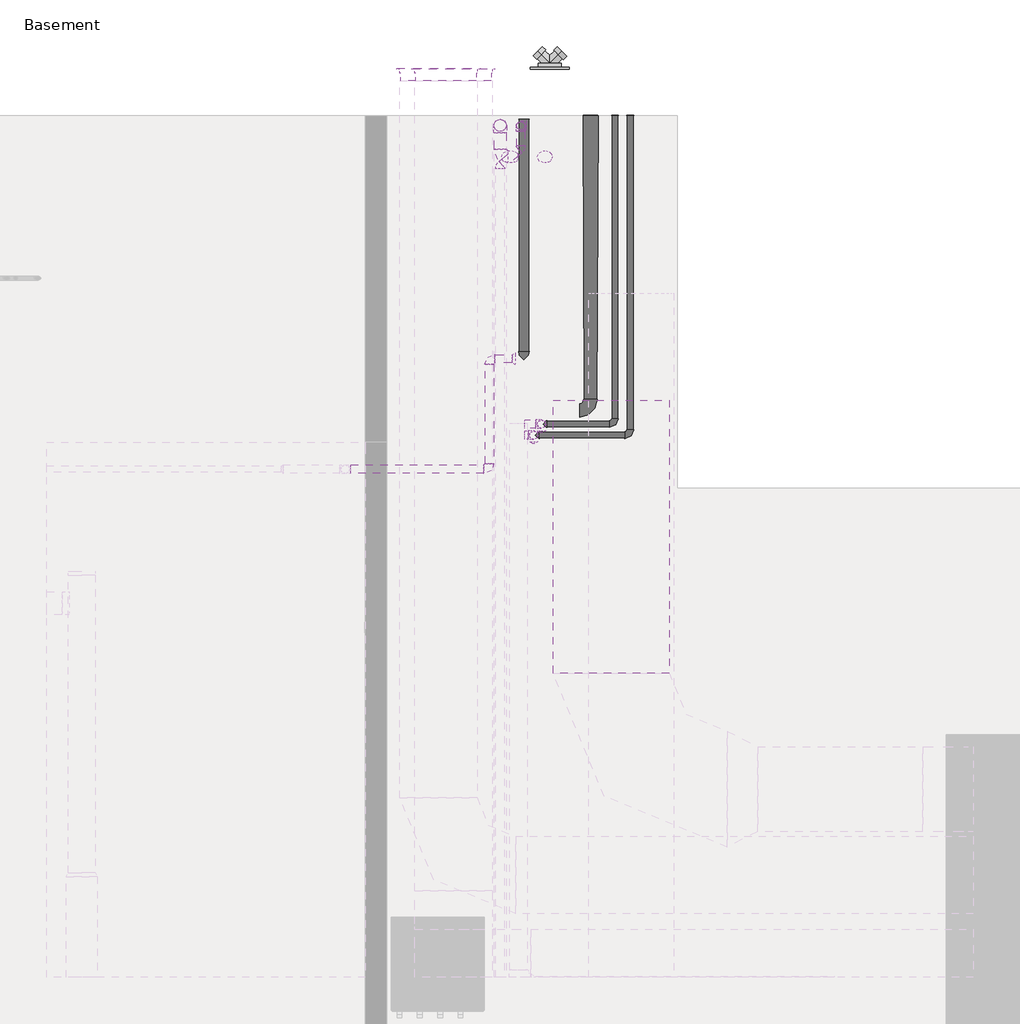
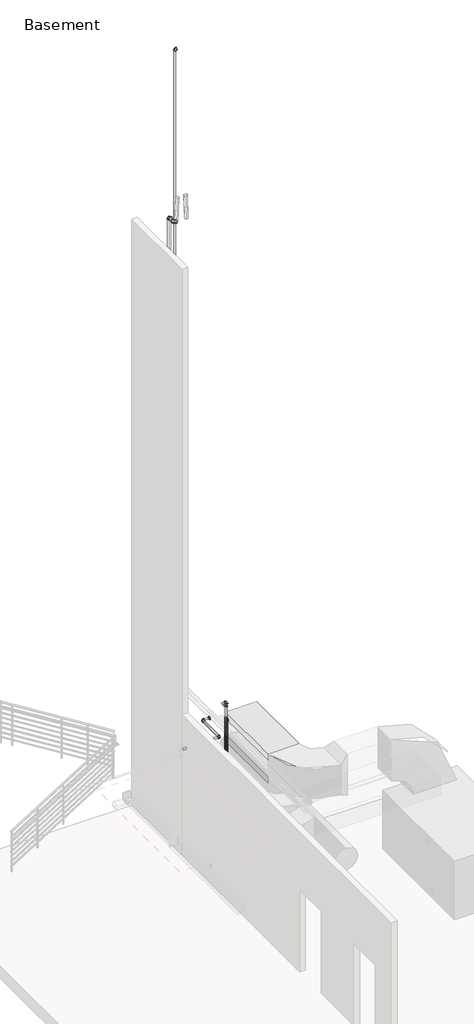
# One storey, part 6 of 6: 23 pipe segments, 22 pipe fittings, 5 proxies, 2 air terminals, 1 duct segment.
"""IFC4 building model written with IfcOpenShell, lengths in millimetres."""

from ifc_helpers import new_model, si_unit, point, frame, frame_2d, origin, place, context, project, spatial, polyline, circle_curve, trimmed, segment, composite_curve, outline, extrude, transform, mapped, element, save
from components import sidewall_diffuser_exhaust_20_x_20_0379b4b1, proxy_83300ab8, pipe_dcw_origin_standard_a8ebccfd, pipe_sanitary_outlet_standard_9883e289, pipe_wet_origin_standard_e697f1e6, pipe_elbow1_standard_2_37b9a8da, pipe_elbow1_standard_2_1c0ee581, pipe_elbow_standard_764eecca, pipe_elbow1_standard_2_c895df00, pipe_pvc_bend_standard_4dbec4a6, pipe_tee_standard_36278b8a, pipe_transition_eccentric_standard_8ef0957a, pipe_transition_eccentric_standard_2aaf0b1f

model = new_model("IFC4")

# Units and contexts
model_context = context("Model", 3, world=origin())
ifc_project = project(units=[si_unit("LENGTHUNIT", "METRE", prefix="MILLI")], contexts=[model_context])

# Site, building, storey
site = spatial("IfcSite", under=ifc_project)
building = spatial("IfcBuilding", under=site)
storey = spatial("IfcBuildingStorey", under=building, Name="Basement", Elevation=-3657.6)

# Air terminals
placement = place(None, origin())
sidewall_diffuser_exhaust_20_x_20_shape = sidewall_diffuser_exhaust_20_x_20_0379b4b1(model_context)
element("IfcAirTerminal", 1, ObjectType="Sidewall Diffuser - Exhaust : 20 x 20", at=placement, inside=storey, context=model_context, shape_type="MappedRepresentation", body=[
    mapped(sidewall_diffuser_exhaust_20_x_20_shape, transform((1430.0244701, 11908.259643, -1066.8), x_axis=(-1.0, 0.0, 0.0), y_axis=(0.0, -1.0, 0.0), z_axis=(0.0, 0.0, 1.0))),
])
element("IfcAirTerminal", 2, ObjectType="Sidewall Diffuser - Intake : 20 x 20", at=placement, inside=storey, context=model_context, shape_type="MappedRepresentation", body=[
    mapped(sidewall_diffuser_exhaust_20_x_20_shape, transform((1530.393321, 11908.259643, -2133.6), x_axis=(-1.0, 0.0, 0.0), y_axis=(0.0, -1.0, 0.0), z_axis=(0.0, 0.0, 1.0))),
])

# Proxies
proxy_shape = proxy_83300ab8(model_context)
element("IfcBuildingElementProxy", 3, Name="Fire Department Inlet Connection - 2 Way - Projecting : 4\"x2 1/2\"x2 1/2\"", ObjectType="Fire Department Inlet Connection - 2 Way - Projecting : 4\"x2 1/2\"x2 1/2\"", at=placement, inside=storey, context=model_context, shape_type="MappedRepresentation", body=[
    mapped(proxy_shape, transform((2162.3560388, 11908.259643, -2946.4), x_axis=(-1.0, 0.0, 0.0), y_axis=(0.0, 0.0, 1.0), z_axis=(0.0, 1.0, 0.0))),
])
pipe_dcw_origin_standard_shape = pipe_dcw_origin_standard_a8ebccfd(model_context)
element("IfcBuildingElementProxy", 4, Name="Pipe DCW Origin : Standard", ObjectType="Pipe DCW Origin : Standard", at=placement, inside=storey, context=model_context, shape_type="MappedRepresentation", body=[
    mapped(pipe_dcw_origin_standard_shape, transform((2692.1068022, 11603.459643, -2438.4), x_axis=(0.0, 1.0, 0.0), y_axis=(-1.0, 0.0, 0.0), z_axis=(0.0, 0.0, 1.0))),
])
element("IfcBuildingElementProxy", 5, Name="Pipe DHW Origin : Standard", ObjectType="Pipe DHW Origin : Standard", at=placement, inside=storey, context=model_context, shape_type="MappedRepresentation", body=[
    mapped(pipe_dcw_origin_standard_shape, transform((2590.5068022, 11603.459643, -2438.4), x_axis=(0.0, 1.0, 0.0), y_axis=(-1.0, 0.0, 0.0), z_axis=(0.0, 0.0, 1.0))),
])
pipe_sanitary_outlet_standard_shape = pipe_sanitary_outlet_standard_9883e289(model_context)
element("IfcBuildingElementProxy", 6, Name="Pipe Sanitary Outlet : Standard", ObjectType="Pipe Sanitary Outlet : Standard", at=placement, inside=storey, context=model_context, shape_type="MappedRepresentation", body=[
    mapped(pipe_sanitary_outlet_standard_shape, transform((2431.2485692, 11603.4596451, -2438.3997959), x_axis=(0.0, 1.0, 0.0), y_axis=(-1.0, 0.0, 0.0), z_axis=(0.0, 0.0, 1.0))),
])
pipe_wet_origin_standard_shape = pipe_wet_origin_standard_e697f1e6(model_context)
element("IfcBuildingElementProxy", 7, Name="Pipe Wet Origin : Standard", ObjectType="Pipe Wet Origin : Standard", at=placement, inside=storey, context=model_context, shape_type="MappedRepresentation", body=[
    mapped(pipe_wet_origin_standard_shape, transform((1992.1760388, 11578.5007311, -2438.4), x_axis=(0.0, 1.0, 0.0), y_axis=(-1.0, 0.0, 0.0), z_axis=(0.0, 0.0, 1.0))),
])

# Duct segment
element("IfcDuctSegment", 8, ObjectType="Radius Elbows / Taps", at=placement, inside=storey, context=model_context, shape_type="SweptSolid", body=[
    extrude(outline(polyline([(2184.5810388, 9731.7050553), (2946.5810388, 9731.7050553), (2946.5810388, 7938.0947518), (2184.5810388, 7938.0947518), (2184.5810388, 9731.7050553)])), frame((0.0, 0.0, -1295.4), z_axis=(0.0, 0.0, 1.0), x_axis=(1.0, 0.0, 0.0)), (0.0, 0.0, 1.0), 762.0),
])

# Pipe fittings
pipe_elbow1_standard_2_shape = pipe_elbow1_standard_2_37b9a8da(model_context)
element("IfcPipeFitting", 9, ObjectType="Pipe Elbow1 : Standard 2", at=placement, inside=storey, context=model_context, shape_type="MappedRepresentation", body=[
    mapped(pipe_elbow1_standard_2_shape, transform((1835.7890973, 11538.5447518, -558.8), x_axis=(0.0, 1.0, 0.0), y_axis=(0.0, 0.0, 1.0), z_axis=(1.0, 0.0, 0.0))),
])
element("IfcPipeFitting", 10, ObjectType="Pipe Elbow1 : Standard 2", at=placement, inside=storey, context=model_context, shape_type="MappedRepresentation", body=[
    mapped(pipe_elbow1_standard_2_shape, transform((1835.7890973, 11538.5447518, 11353.8), x_axis=(0.0, 0.0, 1.0), y_axis=(0.0, -1.0, 0.0), z_axis=(1.0, 0.0, 0.0))),
])
element("IfcPipeFitting", 11, ObjectType="Pipe Elbow1 : Standard 2", at=placement, inside=storey, context=model_context, shape_type="MappedRepresentation", body=[
    mapped(pipe_elbow1_standard_2_shape, transform((1835.7890973, 11330.409643, 11353.8), x_axis=(0.0, -1.0, 0.0), y_axis=(1.0, 0.0, 0.0), z_axis=(0.0, 0.0, 1.0))),
])
element("IfcPipeFitting", 12, ObjectType="Pipe Elbow1 : Standard 2", at=placement, inside=storey, context=model_context, shape_type="MappedRepresentation", body=[
    mapped(pipe_elbow1_standard_2_shape, transform((1992.1760388, 10004.7891583, -2438.4), x_axis=(0.0, -1.0, 0.0), y_axis=(0.0, 0.0, 1.0), z_axis=(-1.0, 0.0, 0.0))),
])
pipe_elbow1_standard_2_2_shape = pipe_elbow1_standard_2_1c0ee581(model_context)
element("IfcPipeFitting", 13, ObjectType="Pipe Elbow1 : Standard 2", at=placement, inside=storey, context=model_context, shape_type="MappedRepresentation", body=[
    mapped(pipe_elbow1_standard_2_2_shape, transform((2107.9068022, 9575.5665072, -152.4), x_axis=(0.0, 0.0, 1.0), y_axis=(-1.0, 0.0, 0.0), z_axis=(0.0, -1.0, 0.0))),
])
element("IfcPipeFitting", 14, ObjectType="Pipe Elbow1 : Standard 2", at=placement, inside=storey, context=model_context, shape_type="MappedRepresentation", body=[
    mapped(pipe_elbow1_standard_2_2_shape, transform((2057.1068022, 9502.9587059, -152.4), x_axis=(0.9999457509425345, 0.0, 0.01041610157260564), y_axis=(0.01041610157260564, 0.0, -0.9999457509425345), z_axis=(0.0, 1.0, 0.0))),
])
pipe_elbow_standard_shape = pipe_elbow_standard_764eecca(model_context)
element("IfcPipeFitting", 15, ObjectType="Pipe Elbow1 : Standard 2", at=placement, inside=storey, context=model_context, shape_type="MappedRepresentation", body=[
    mapped(pipe_elbow_standard_shape, transform((2107.9068022, 9575.5665072, -2438.4), x_axis=(0.0, 0.0, -1.0), y_axis=(1.0, 0.0, 0.0), z_axis=(0.0, -1.0, 0.0))),
])
element("IfcPipeFitting", 16, ObjectType="Pipe Elbow1 : Standard 2", at=placement, inside=storey, context=model_context, shape_type="MappedRepresentation", body=[
    mapped(pipe_elbow_standard_shape, transform((2057.1068022, 9502.9587059, -2438.4), x_axis=(0.0, 0.0, -1.0), y_axis=(1.0, 0.0, 0.0), z_axis=(0.0, -1.0, 0.0))),
])
element("IfcPipeFitting", 17, ObjectType="Pipe Elbow1 : Standard 2", at=placement, inside=storey, context=model_context, shape_type="MappedRepresentation", body=[
    mapped(pipe_elbow_standard_shape, transform((2590.5068022, 9575.5665072, -2438.4), x_axis=(1.0, 0.0, 0.0), y_axis=(0.0, 1.0, 0.0), z_axis=(0.0, 0.0, 1.0))),
])
element("IfcPipeFitting", 18, ObjectType="Pipe Elbow1 : Standard 2", at=placement, inside=storey, context=model_context, shape_type="MappedRepresentation", body=[
    mapped(pipe_elbow_standard_shape, transform((2692.1068022, 9502.9587059, -2438.4), x_axis=(1.0, 0.0, 0.0), y_axis=(0.0, 1.0, 0.0), z_axis=(0.0, 0.0, 1.0))),
])
element("IfcPipeFitting", 19, ObjectType="Pipe Elbow1 : Standard 2", at=placement, inside=storey, context=model_context, shape_type="MappedRepresentation", body=[
    mapped(pipe_elbow_standard_shape, transform((1972.3140973, 11535.3697518, -431.8), x_axis=(0.0, 1.0, 0.0), y_axis=(0.0, 0.0, 1.0), z_axis=(1.0, 0.0, 0.0))),
])
element("IfcPipeFitting", 20, ObjectType="Pipe Elbow1 : Standard 2", at=placement, inside=storey, context=model_context, shape_type="MappedRepresentation", body=[
    mapped(pipe_elbow_standard_shape, transform((1972.3140973, 11535.3697518, 15687.675), x_axis=(0.0, 0.0, 1.0), y_axis=(1.0, 0.0, 0.0), z_axis=(0.0, 1.0, 0.0))),
])
element("IfcPipeFitting", 21, ObjectType="Pipe Elbow1 : Standard 2", at=placement, inside=storey, context=model_context, shape_type="MappedRepresentation", body=[
    mapped(pipe_elbow_standard_shape, transform((1765.5162426, 9279.359643, -762.0), x_axis=(1.0, 0.0, 0.0), y_axis=(0.0, 1.0, 0.0), z_axis=(0.0, 0.0, 1.0))),
])
element("IfcPipeFitting", 22, ObjectType="Pipe Elbow1 : Standard 2", at=placement, inside=storey, context=model_context, shape_type="MappedRepresentation", body=[
    mapped(pipe_elbow_standard_shape, transform((1765.5162426, 10004.7891583, -762.0), x_axis=(-1.0, 0.0, 0.0), y_axis=(0.0, -1.0, 0.0), z_axis=(0.0, 0.0, 1.0))),
])
pipe_elbow1_standard_2_3_shape = pipe_elbow1_standard_2_c895df00(model_context)
element("IfcPipeFitting", 23, ObjectType="Pipe Elbow1 : Standard 2", at=placement, inside=storey, context=model_context, shape_type="MappedRepresentation", body=[
    mapped(pipe_elbow1_standard_2_3_shape, transform((1972.3140973, 11389.7166367, -431.8), x_axis=(0.0, -1.0, 0.0), y_axis=(-1.0, 0.0, 0.0), z_axis=(0.0, 0.0, -1.0))),
])
element("IfcPipeFitting", 24, ObjectType="Pipe Elbow1 : Standard 2", at=placement, inside=storey, context=model_context, shape_type="MappedRepresentation", body=[
    mapped(pipe_elbow1_standard_2_3_shape, transform((1835.7890973, 11270.2572508, -431.8), x_axis=(0.0, 1.0, 0.0), y_axis=(1.0, 0.0, 0.0), z_axis=(0.0, 0.0, -1.0))),
])
pipe_pvc_bend_standard_shape = pipe_pvc_bend_standard_4dbec4a6(model_context)
element("IfcPipeFitting", 25, ObjectType="Pipe PVC Bend : Standard", at=placement, inside=storey, context=model_context, shape_type="MappedRepresentation", body=[
    mapped(pipe_pvc_bend_standard_shape, transform((2431.2485692, 9666.2337041, -2418.220359), x_axis=(0.0, -0.9999457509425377, 0.010416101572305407), y_axis=(-0.999996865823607, -2.6078438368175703e-05, -0.0025035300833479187), z_axis=(0.002503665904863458, -0.010416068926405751, -0.9999426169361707))),
])
pipe_tee_standard_shape = pipe_tee_standard_36278b8a(model_context)
element("IfcPipeFitting", 26, ObjectType="Pipe Tee : Standard", at=placement, inside=storey, context=model_context, shape_type="MappedRepresentation", body=[
    mapped(pipe_tee_standard_shape, transform((2057.1068022, 9502.9587059, -533.4), x_axis=(0.0, 0.0, 1.0), y_axis=(0.0, 1.0, 0.0), z_axis=(-1.0, 0.0, 0.0))),
])
element("IfcPipeFitting", 27, ObjectType="Pipe Tee : Standard", at=placement, inside=storey, context=model_context, shape_type="MappedRepresentation", body=[
    mapped(pipe_tee_standard_shape, transform((2107.9068022, 9575.5665072, -609.6), x_axis=(0.0, 0.0, 1.0), y_axis=(0.0, 1.0, 0.0), z_axis=(-1.0, 0.0, 0.0))),
])
pipe_transition_eccentric_standard_shape = pipe_transition_eccentric_standard_8ef0957a(model_context)
element("IfcPipeFitting", 28, ObjectType="Pipe Transition Eccentric : Standard", at=placement, inside=storey, context=model_context, shape_type="MappedRepresentation", body=[
    mapped(pipe_transition_eccentric_standard_shape, transform((2057.1068022, 9460.0962059, -533.4), x_axis=(0.0, -1.0, 0.0), y_axis=(0.0, 0.0, 1.0), z_axis=(-1.0, 0.0, 0.0))),
])
element("IfcPipeFitting", 29, ObjectType="Pipe Transition Eccentric : Standard", at=placement, inside=storey, context=model_context, shape_type="MappedRepresentation", body=[
    mapped(pipe_transition_eccentric_standard_shape, transform((2107.9068022, 9532.7040072, -609.6), x_axis=(0.0, -1.0, 0.0), y_axis=(0.0, 0.0, 1.0), z_axis=(-1.0, 0.0, 0.0))),
])
pipe_transition_eccentric_standard_2_shape = pipe_transition_eccentric_standard_2aaf0b1f(model_context)
element("IfcPipeFitting", 30, ObjectType="Pipe Transition Eccentric : Standard", at=placement, inside=storey, context=model_context, shape_type="MappedRepresentation", body=[
    mapped(pipe_transition_eccentric_standard_2_shape, transform((1936.6135388, 10004.7891583, -762.0), x_axis=(-1.0, 0.0, 0.0), y_axis=(0.0, -1.0, 0.0), z_axis=(0.0, 0.0, 1.0))),
])

# Pipe segments
element("IfcPipeSegment", 31, ObjectType="PVC", at=placement, inside=storey, context=model_context, shape_type="SweptSolid", body=[
    extrude(outline(composite_curve([segment(trimmed(circle_curve(frame_2d((0.0, 57.15)), 57.15), [point((57.15, 57.15))], [point((0.0, 0.0))], False, "CARTESIAN"), True, "CONTINUOUS"), segment(trimmed(circle_curve(frame_2d((0.0, 57.15)), 57.15), [point((0.0, 0.0))], [point((-57.15, 57.15))], False, "CARTESIAN"), True, "CONTINUOUS"), segment(trimmed(circle_curve(frame_2d((0.0, 57.15)), 57.15), [point((-57.15, 57.15))], [point((0.0, 114.3000001))], False, "CARTESIAN"), True, "CONTINUOUS"), segment(trimmed(circle_curve(frame_2d((0.0, 57.15)), 57.15), [point((0.0, 114.3000001))], [point((57.15, 57.15))], False, "CARTESIAN"), True, "CONTINUOUS")], self_intersect=False)), frame((2431.2485692, 11602.8643649, -2495.5466956), z_axis=(0.0, -0.9999457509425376, 0.010416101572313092), x_axis=(1.0, 0.0, 0.0)), (0.0, 0.0, 1.0), 1864.3041348),
])
element("IfcPipeSegment", 32, ObjectType="PVC", at=placement, inside=storey, context=model_context, shape_type="SweptSolid", body=[
    extrude(outline(composite_curve([segment(trimmed(circle_curve(frame_2d((0.0, 57.15)), 57.15), [point((0.0, 0.0))], [point((-57.15, 57.15))], False, "CARTESIAN"), True, "CONTINUOUS"), segment(trimmed(circle_curve(frame_2d((0.0, 57.15)), 57.15), [point((-57.15, 57.15))], [point((0.0, 114.3))], False, "CARTESIAN"), True, "CONTINUOUS"), segment(trimmed(circle_curve(frame_2d((0.0, 57.15)), 57.15), [point((0.0, 114.3))], [point((57.15, 57.15))], False, "CARTESIAN"), True, "CONTINUOUS"), segment(trimmed(circle_curve(frame_2d((0.0, 57.15)), 57.15), [point((57.15, 57.15))], [point((0.0, 0.0))], False, "CARTESIAN"), True, "CONTINUOUS")], self_intersect=False)), frame((2029.2716844, 9609.0837041, -2419.2268326), z_axis=(0.9999968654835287, 0.0, 0.002503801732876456), x_axis=(0.002503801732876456, 0.0, -0.9999968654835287)), (0.0, 0.0, 1.0), 328.9512403),
])
element("IfcPipeSegment", 33, ObjectType="Standard", at=placement, inside=storey, context=model_context, shape_type="SweptSolid", body=[
    extrude(outline(composite_curve([segment(trimmed(circle_curve(frame_2d((0.0, 26.9875)), 26.9875), [point((0.0, 0.0))], [point((-26.9874999, 26.9875))], False, "CARTESIAN"), True, "CONTINUOUS"), segment(trimmed(circle_curve(frame_2d((0.0, 26.9875)), 26.9875), [point((-26.9874999, 26.9875))], [point((0.0, 53.975))], False, "CARTESIAN"), True, "CONTINUOUS"), segment(trimmed(circle_curve(frame_2d((0.0, 26.9875)), 26.9875), [point((0.0, 53.975))], [point((26.9875, 26.9875))], False, "CARTESIAN"), True, "CONTINUOUS"), segment(trimmed(circle_curve(frame_2d((0.0, 26.9875)), 26.9875), [point((26.9875, 26.9875))], [point((0.0, 0.0))], False, "CARTESIAN"), True, "CONTINUOUS")], self_intersect=False)), frame((1998.7496201, 9475.9712059, -153.0078873), z_axis=(0.9999457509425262, 0.0, 0.010416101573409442), x_axis=(0.010416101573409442, 0.0, -0.9999457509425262)), (0.0, 0.0, 1.0), 21.4655287),
])
element("IfcPipeSegment", 34, ObjectType="Standard", at=placement, inside=storey, context=model_context, shape_type="SweptSolid", body=[
    extrude(outline(composite_curve([segment(trimmed(circle_curve(frame_2d((0.0, 26.9875)), 26.9875), [point((0.0, 0.0))], [point((-26.9875, 26.9875))], False, "CARTESIAN"), True, "CONTINUOUS"), segment(trimmed(circle_curve(frame_2d((0.0, 26.9875)), 26.9875), [point((-26.9875, 26.9875))], [point((0.0, 53.975))], False, "CARTESIAN"), True, "CONTINUOUS"), segment(trimmed(circle_curve(frame_2d((0.0, 26.9875)), 26.9875), [point((0.0, 53.975))], [point((26.9874999, 26.9875))], False, "CARTESIAN"), True, "CONTINUOUS"), segment(trimmed(circle_curve(frame_2d((0.0, 26.9875)), 26.9875), [point((26.9874999, 26.9875))], [point((0.0, 0.0))], False, "CARTESIAN"), True, "CONTINUOUS")], self_intersect=False)), frame((1998.7496201, 9548.5790072, -153.537054), z_axis=(0.9999457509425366, 0.0, 0.010416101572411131), x_axis=(0.010416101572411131, 0.0, -0.9999457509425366)), (0.0, 0.0, 1.0), 72.2682847),
])
element("IfcPipeSegment", 35, ObjectType="Standard", at=placement, inside=storey, context=model_context, shape_type="SweptSolid", body=[
    extrude(outline(composite_curve([segment(trimmed(circle_curve(frame_2d((2107.9068022, 9575.5665072)), 26.9875), [point((2080.9193022, 9575.5665072))], [point((2107.9068022, 9602.5540072))], False, "CARTESIAN"), True, "CONTINUOUS"), segment(trimmed(circle_curve(frame_2d((2107.9068022, 9575.5665072)), 26.9875), [point((2107.9068022, 9602.5540072))], [point((2134.8943022, 9575.5665072))], False, "CARTESIAN"), True, "CONTINUOUS"), segment(trimmed(circle_curve(frame_2d((2107.9068022, 9575.5665072)), 26.9875), [point((2134.8943022, 9575.5665072))], [point((2107.9068022, 9548.5790072))], False, "CARTESIAN"), True, "CONTINUOUS"), segment(trimmed(circle_curve(frame_2d((2107.9068022, 9575.5665072)), 26.9875), [point((2107.9068022, 9548.5790072))], [point((2080.9193022, 9575.5665072))], False, "CARTESIAN"), True, "CONTINUOUS")], self_intersect=False)), frame((0.0, 0.0, -566.7375), z_axis=(0.0, 0.0, 1.0), x_axis=(1.0, 0.0, 0.0)), (0.0, 0.0, 1.0), 377.4426806),
])
element("IfcPipeSegment", 36, ObjectType="Standard", at=placement, inside=storey, context=model_context, shape_type="SweptSolid", body=[
    extrude(outline(composite_curve([segment(trimmed(circle_curve(frame_2d((9575.5665072, -2438.4)), 26.9875), [point((9548.5790072, -2438.4))], [point((9575.5665072, -2411.4125))], False, "CARTESIAN"), True, "CONTINUOUS"), segment(trimmed(circle_curve(frame_2d((9575.5665072, -2438.4)), 26.9875), [point((9575.5665072, -2411.4125))], [point((9602.5540072, -2438.4))], False, "CARTESIAN"), True, "CONTINUOUS"), segment(trimmed(circle_curve(frame_2d((9575.5665072, -2438.4)), 26.9875), [point((9602.5540072, -2438.4))], [point((9575.5665072, -2465.3875))], False, "CARTESIAN"), True, "CONTINUOUS"), segment(trimmed(circle_curve(frame_2d((9575.5665072, -2438.4)), 26.9875), [point((9575.5665072, -2465.3875))], [point((9548.5790072, -2438.4))], False, "CARTESIAN"), True, "CONTINUOUS")], self_intersect=False)), frame((2144.4193022, 0.0, 0.0), z_axis=(1.0, 0.0, 0.0), x_axis=(0.0, 1.0, 0.0)), (0.0, 0.0, 1.0), 409.575),
])
element("IfcPipeSegment", 37, ObjectType="Standard", at=placement, inside=storey, context=model_context, shape_type="SweptSolid", body=[
    extrude(outline(composite_curve([segment(trimmed(circle_curve(frame_2d((9502.9587059, -2438.4)), 26.9875), [point((9475.9712059, -2438.4))], [point((9502.9587059, -2411.4125))], False, "CARTESIAN"), True, "CONTINUOUS"), segment(trimmed(circle_curve(frame_2d((9502.9587059, -2438.4)), 26.9875), [point((9502.9587059, -2411.4125))], [point((9529.9462059, -2438.4))], False, "CARTESIAN"), True, "CONTINUOUS"), segment(trimmed(circle_curve(frame_2d((9502.9587059, -2438.4)), 26.9875), [point((9529.9462059, -2438.4))], [point((9502.9587059, -2465.3875))], False, "CARTESIAN"), True, "CONTINUOUS"), segment(trimmed(circle_curve(frame_2d((9502.9587059, -2438.4)), 26.9875), [point((9502.9587059, -2465.3875))], [point((9475.9712059, -2438.4))], False, "CARTESIAN"), True, "CONTINUOUS")], self_intersect=False)), frame((2093.6193022, 0.0, 0.0), z_axis=(1.0, 0.0, 0.0), x_axis=(0.0, 1.0, 0.0)), (0.0, 0.0, 1.0), 561.975),
])
element("IfcPipeSegment", 38, ObjectType="Standard", at=placement, inside=storey, context=model_context, shape_type="SweptSolid", body=[
    extrude(outline(composite_curve([segment(trimmed(circle_curve(frame_2d((-2438.4, 2692.1068022)), 26.9875), [point((-2438.4, 2719.0943022))], [point((-2411.4125, 2692.1068022))], False, "CARTESIAN"), True, "CONTINUOUS"), segment(trimmed(circle_curve(frame_2d((-2438.4, 2692.1068022)), 26.9875), [point((-2411.4125, 2692.1068022))], [point((-2438.4, 2665.1193022))], False, "CARTESIAN"), True, "CONTINUOUS"), segment(trimmed(circle_curve(frame_2d((-2438.4, 2692.1068022)), 26.9875), [point((-2438.4, 2665.1193022))], [point((-2465.3875, 2692.1068022))], False, "CARTESIAN"), True, "CONTINUOUS"), segment(trimmed(circle_curve(frame_2d((-2438.4, 2692.1068022)), 26.9875), [point((-2465.3875, 2692.1068022))], [point((-2438.4, 2719.0943022))], False, "CARTESIAN"), True, "CONTINUOUS")], self_intersect=False)), frame((0.0, 9539.4712059, 0.0), z_axis=(0.0, 1.0, 0.0), x_axis=(0.0, 0.0, 1.0)), (0.0, 0.0, 1.0), 2063.988437),
])
element("IfcPipeSegment", 39, ObjectType="Standard", at=placement, inside=storey, context=model_context, shape_type="SweptSolid", body=[
    extrude(outline(composite_curve([segment(trimmed(circle_curve(frame_2d((2057.1068022, 9502.9587059)), 26.9875), [point((2084.0943022, 9502.9587059))], [point((2057.1068022, 9475.9712059))], False, "CARTESIAN"), True, "CONTINUOUS"), segment(trimmed(circle_curve(frame_2d((2057.1068022, 9502.9587059)), 26.9875), [point((2057.1068022, 9475.9712059))], [point((2030.1193022, 9502.9587059))], False, "CARTESIAN"), True, "CONTINUOUS"), segment(trimmed(circle_curve(frame_2d((2057.1068022, 9502.9587059)), 26.9875), [point((2030.1193022, 9502.9587059))], [point((2057.1068022, 9529.9462059))], False, "CARTESIAN"), True, "CONTINUOUS"), segment(trimmed(circle_curve(frame_2d((2057.1068022, 9502.9587059)), 26.9875), [point((2057.1068022, 9529.9462059))], [point((2084.0943022, 9502.9587059))], False, "CARTESIAN"), True, "CONTINUOUS")], self_intersect=False)), frame((0.0, 0.0, -2401.8875), z_axis=(0.0, 0.0, 1.0), x_axis=(1.0, 0.0, 0.0)), (0.0, 0.0, 1.0), 1825.625),
])
element("IfcPipeSegment", 40, ObjectType="Standard", at=placement, inside=storey, context=model_context, shape_type="SweptSolid", body=[
    extrude(outline(composite_curve([segment(trimmed(circle_curve(frame_2d((2057.1068022, 9502.9587059)), 26.9875), [point((2084.0943022, 9502.9587059))], [point((2057.1068022, 9475.9712059))], False, "CARTESIAN"), True, "CONTINUOUS"), segment(trimmed(circle_curve(frame_2d((2057.1068022, 9502.9587059)), 26.9875), [point((2057.1068022, 9475.9712059))], [point((2030.1193022, 9502.9587059))], False, "CARTESIAN"), True, "CONTINUOUS"), segment(trimmed(circle_curve(frame_2d((2057.1068022, 9502.9587059)), 26.9875), [point((2030.1193022, 9502.9587059))], [point((2057.1068022, 9529.9462059))], False, "CARTESIAN"), True, "CONTINUOUS"), segment(trimmed(circle_curve(frame_2d((2057.1068022, 9502.9587059)), 26.9875), [point((2057.1068022, 9529.9462059))], [point((2084.0943022, 9502.9587059))], False, "CARTESIAN"), True, "CONTINUOUS")], self_intersect=False)), frame((0.0, 0.0, -490.5375), z_axis=(0.0, 0.0, 1.0), x_axis=(1.0, 0.0, 0.0)), (0.0, 0.0, 1.0), 301.2426806),
])
element("IfcPipeSegment", 41, ObjectType="Standard", at=placement, inside=storey, context=model_context, shape_type="SweptSolid", body=[
    extrude(outline(composite_curve([segment(trimmed(circle_curve(frame_2d((2107.9068022, 9575.5665072)), 26.9875), [point((2080.9193022, 9575.5665072))], [point((2107.9068022, 9602.5540072))], False, "CARTESIAN"), True, "CONTINUOUS"), segment(trimmed(circle_curve(frame_2d((2107.9068022, 9575.5665072)), 26.9875), [point((2107.9068022, 9602.5540072))], [point((2134.8943022, 9575.5665072))], False, "CARTESIAN"), True, "CONTINUOUS"), segment(trimmed(circle_curve(frame_2d((2107.9068022, 9575.5665072)), 26.9875), [point((2134.8943022, 9575.5665072))], [point((2107.9068022, 9548.5790072))], False, "CARTESIAN"), True, "CONTINUOUS"), segment(trimmed(circle_curve(frame_2d((2107.9068022, 9575.5665072)), 26.9875), [point((2107.9068022, 9548.5790072))], [point((2080.9193022, 9575.5665072))], False, "CARTESIAN"), True, "CONTINUOUS")], self_intersect=False)), frame((0.0, 0.0, -2401.8875), z_axis=(0.0, 0.0, 1.0), x_axis=(1.0, 0.0, 0.0)), (0.0, 0.0, 1.0), 1749.425),
])
element("IfcPipeSegment", 42, ObjectType="Standard", at=placement, inside=storey, context=model_context, shape_type="SweptSolid", body=[
    extrude(outline(composite_curve([segment(trimmed(circle_curve(frame_2d((-2438.4, 2590.5068022)), 26.9875), [point((-2438.4, 2563.5193022))], [point((-2465.3875, 2590.5068022))], False, "CARTESIAN"), True, "CONTINUOUS"), segment(trimmed(circle_curve(frame_2d((-2438.4, 2590.5068022)), 26.9875), [point((-2465.3875, 2590.5068022))], [point((-2438.4, 2617.4943022))], False, "CARTESIAN"), True, "CONTINUOUS"), segment(trimmed(circle_curve(frame_2d((-2438.4, 2590.5068022)), 26.9875), [point((-2438.4, 2617.4943022))], [point((-2411.4125, 2590.5068022))], False, "CARTESIAN"), True, "CONTINUOUS"), segment(trimmed(circle_curve(frame_2d((-2438.4, 2590.5068022)), 26.9875), [point((-2411.4125, 2590.5068022))], [point((-2438.4, 2563.5193022))], False, "CARTESIAN"), True, "CONTINUOUS")], self_intersect=False)), frame((0.0, 9612.0790072, 0.0), z_axis=(0.0, 1.0, 0.0), x_axis=(0.0, 0.0, 1.0)), (0.0, 0.0, 1.0), 1991.3806358),
])
element("IfcPipeSegment", 43, ObjectType="Standard", at=placement, inside=storey, context=model_context, shape_type="SweptSolid", body=[
    extrude(outline(composite_curve([segment(trimmed(circle_curve(frame_2d((1835.7890973, 11538.5447518)), 39.6875), [point((1875.4765973, 11538.5447518))], [point((1835.7890973, 11498.8572518))], False, "CARTESIAN"), True, "CONTINUOUS"), segment(trimmed(circle_curve(frame_2d((1835.7890973, 11538.5447518)), 39.6875), [point((1835.7890973, 11498.8572518))], [point((1796.1015973, 11538.5447518))], False, "CARTESIAN"), True, "CONTINUOUS"), segment(trimmed(circle_curve(frame_2d((1835.7890973, 11538.5447518)), 39.6875), [point((1796.1015973, 11538.5447518))], [point((1835.7890973, 11578.2322518))], False, "CARTESIAN"), True, "CONTINUOUS"), segment(trimmed(circle_curve(frame_2d((1835.7890973, 11538.5447518)), 39.6875), [point((1835.7890973, 11578.2322518))], [point((1875.4765973, 11538.5447518))], False, "CARTESIAN"), True, "CONTINUOUS")], self_intersect=False)), frame((0.0, 0.0, -509.5875), z_axis=(0.0, 0.0, 1.0), x_axis=(1.0, 0.0, 0.0)), (0.0, 0.0, 1.0), 11814.175),
])
element("IfcPipeSegment", 44, ObjectType="Standard", at=placement, inside=storey, context=model_context, shape_type="SweptSolid", body=[
    extrude(outline(composite_curve([segment(trimmed(circle_curve(frame_2d((1972.3140973, 11535.3697518)), 26.9875), [point((1999.3015973, 11535.3697518))], [point((1972.3140973, 11508.3822518))], False, "CARTESIAN"), True, "CONTINUOUS"), segment(trimmed(circle_curve(frame_2d((1972.3140973, 11535.3697518)), 26.9875), [point((1972.3140973, 11508.3822518))], [point((1945.3265973, 11535.3697518))], False, "CARTESIAN"), True, "CONTINUOUS"), segment(trimmed(circle_curve(frame_2d((1972.3140973, 11535.3697518)), 26.9875), [point((1945.3265973, 11535.3697518))], [point((1972.3140973, 11562.3572518))], False, "CARTESIAN"), True, "CONTINUOUS"), segment(trimmed(circle_curve(frame_2d((1972.3140973, 11535.3697518)), 26.9875), [point((1972.3140973, 11562.3572518))], [point((1999.3015973, 11535.3697518))], False, "CARTESIAN"), True, "CONTINUOUS")], self_intersect=False)), frame((0.0, 0.0, -395.2875), z_axis=(0.0, 0.0, 1.0), x_axis=(1.0, 0.0, 0.0)), (0.0, 0.0, 1.0), 16046.45),
])
element("IfcPipeSegment", 45, ObjectType="Standard", at=placement, inside=storey, context=model_context, shape_type="SweptSolid", body=[
    extrude(outline(composite_curve([segment(trimmed(circle_curve(frame_2d((-431.8, 1972.3140973)), 26.9875), [point((-404.8125, 1972.3140973))], [point((-431.8, 1945.3265973))], False, "CARTESIAN"), True, "CONTINUOUS"), segment(trimmed(circle_curve(frame_2d((-431.8, 1972.3140973)), 26.9875), [point((-431.8, 1945.3265973))], [point((-458.7875, 1972.3140973))], False, "CARTESIAN"), True, "CONTINUOUS"), segment(trimmed(circle_curve(frame_2d((-431.8, 1972.3140973)), 26.9875), [point((-458.7875, 1972.3140973))], [point((-431.8, 1999.3015973))], False, "CARTESIAN"), True, "CONTINUOUS"), segment(trimmed(circle_curve(frame_2d((-431.8, 1972.3140973)), 26.9875), [point((-431.8, 1999.3015973))], [point((-404.8125, 1972.3140973))], False, "CARTESIAN"), True, "CONTINUOUS")], self_intersect=False)), frame((0.0, 11406.2848481, 0.0), z_axis=(0.0, 1.0, 0.0), x_axis=(0.0, 0.0, 1.0)), (0.0, 0.0, 1.0), 92.5724037),
])
element("IfcPipeSegment", 46, ObjectType="Standard", at=placement, inside=storey, context=model_context, shape_type="SweptSolid", body=[
    extrude(outline(composite_curve([segment(trimmed(circle_curve(frame_2d((0.0, -26.9875)), 26.9875), [point((-26.9875, -26.9875))], [point((0.0, 0.0))], False, "CARTESIAN"), True, "CONTINUOUS"), segment(trimmed(circle_curve(frame_2d((0.0, -26.9875)), 26.9875), [point((0.0, 0.0))], [point((26.9875, -26.9875))], False, "CARTESIAN"), True, "CONTINUOUS"), segment(trimmed(circle_curve(frame_2d((0.0, -26.9875)), 26.9875), [point((26.9875, -26.9875))], [point((0.0, -53.975))], False, "CARTESIAN"), True, "CONTINUOUS"), segment(trimmed(circle_curve(frame_2d((0.0, -26.9875)), 26.9875), [point((0.0, -53.975))], [point((-26.9875, -26.9875))], False, "CARTESIAN"), True, "CONTINUOUS")], self_intersect=False)), frame((1848.2579466, 11281.1674949, -458.7875), z_axis=(0.7525766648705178, 0.6585046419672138, 0.0), x_axis=(0.6585046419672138, -0.7525766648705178, 0.0)), (0.0, 0.0, 1.0), 148.2736666),
])
element("IfcPipeSegment", 47, ObjectType="Standard", at=placement, inside=storey, context=model_context, shape_type="SweptSolid", body=[
    extrude(outline(composite_curve([segment(trimmed(circle_curve(frame_2d((0.0, -39.6875)), 39.6875), [point((-39.6875, -39.6875))], [point((0.0, 0.0))], False, "CARTESIAN"), True, "CONTINUOUS"), segment(trimmed(circle_curve(frame_2d((0.0, -39.6875)), 39.6875), [point((0.0, 0.0))], [point((39.6875, -39.6875))], False, "CARTESIAN"), True, "CONTINUOUS"), segment(trimmed(circle_curve(frame_2d((0.0, -39.6875)), 39.6875), [point((39.6875, -39.6875))], [point((0.0, -79.375))], False, "CARTESIAN"), True, "CONTINUOUS"), segment(trimmed(circle_curve(frame_2d((0.0, -39.6875)), 39.6875), [point((0.0, -79.375))], [point((-39.6875, -39.6875))], False, "CARTESIAN"), True, "CONTINUOUS")], self_intersect=False)), frame((1796.1015973, 11379.622143, 11353.8), z_axis=(3.2196112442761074e-12, 1.0, 0.0), x_axis=(0.0, 0.0, -1.0)), (0.0, 0.0, 1.0), 109.7101088),
])
element("IfcPipeSegment", 48, ObjectType="Standard", at=placement, inside=storey, context=model_context, shape_type="SweptSolid", body=[
    extrude(outline(composite_curve([segment(trimmed(circle_curve(frame_2d((0.0, 39.6875)), 39.6875), [point((0.0, 79.375))], [point((39.6875, 39.6875))], False, "CARTESIAN"), True, "CONTINUOUS"), segment(trimmed(circle_curve(frame_2d((0.0, 39.6875)), 39.6875), [point((39.6875, 39.6875))], [point((0.0, 0.0))], False, "CARTESIAN"), True, "CONTINUOUS"), segment(trimmed(circle_curve(frame_2d((0.0, 39.6875)), 39.6875), [point((0.0, 0.0))], [point((-39.6875, 39.6875))], False, "CARTESIAN"), True, "CONTINUOUS"), segment(trimmed(circle_curve(frame_2d((0.0, 39.6875)), 39.6875), [point((-39.6875, 39.6875))], [point((0.0, 79.375))], False, "CARTESIAN"), True, "CONTINUOUS")], self_intersect=False)), frame((2138.5435388, 11290.722143, 11353.8), z_axis=(-0.03091895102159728, 0.0, 0.9995218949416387), x_axis=(0.9995218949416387, 0.0, 0.03091895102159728)), (0.0, 0.0, 1.0), 609.8915923),
])
element("IfcPipeSegment", 49, ObjectType="Standard", at=placement, inside=storey, context=model_context, shape_type="SweptSolid", body=[
    extrude(outline(composite_curve([segment(trimmed(circle_curve(frame_2d((0.0, 39.6875)), 39.6875), [point((0.0, 0.0))], [point((-39.6874999, 39.6875))], False, "CARTESIAN"), True, "CONTINUOUS"), segment(trimmed(circle_curve(frame_2d((0.0, 39.6875)), 39.6875), [point((-39.6874999, 39.6875))], [point((0.0, 79.375))], False, "CARTESIAN"), True, "CONTINUOUS"), segment(trimmed(circle_curve(frame_2d((0.0, 39.6875)), 39.6875), [point((0.0, 79.375))], [point((39.6875, 39.6875))], False, "CARTESIAN"), True, "CONTINUOUS"), segment(trimmed(circle_curve(frame_2d((0.0, 39.6875)), 39.6875), [point((39.6875, 39.6875))], [point((0.0, 0.0))], False, "CARTESIAN"), True, "CONTINUOUS")], self_intersect=False)), frame((1885.0015973, 11290.722143, 11353.8), z_axis=(0.05157943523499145, 0.0, 0.9986688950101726), x_axis=(0.9986688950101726, 0.0, -0.05157943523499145)), (0.0, 0.0, 1.0), 610.4125232),
])
element("IfcPipeSegment", 50, ObjectType="Standard", at=placement, inside=storey, context=model_context, shape_type="SweptSolid", body=[
    extrude(outline(composite_curve([segment(trimmed(circle_curve(frame_2d((-2438.4, 1992.1760388)), 39.6875), [point((-2438.4, 1952.4885388))], [point((-2478.0875, 1992.1760388))], False, "CARTESIAN"), True, "CONTINUOUS"), segment(trimmed(circle_curve(frame_2d((-2438.4, 1992.1760388)), 39.6875), [point((-2478.0875, 1992.1760388))], [point((-2438.4, 2031.8635388))], False, "CARTESIAN"), True, "CONTINUOUS"), segment(trimmed(circle_curve(frame_2d((-2438.4, 1992.1760388)), 39.6875), [point((-2438.4, 2031.8635388))], [point((-2398.7125, 1992.1760388))], False, "CARTESIAN"), True, "CONTINUOUS"), segment(trimmed(circle_curve(frame_2d((-2438.4, 1992.1760388)), 39.6875), [point((-2398.7125, 1992.1760388))], [point((-2438.4, 1952.4885388))], False, "CARTESIAN"), True, "CONTINUOUS")], self_intersect=False)), frame((0.0, 10054.0016583, 0.0), z_axis=(0.0, 1.0, 0.0), x_axis=(0.0, 0.0, 1.0)), (0.0, 0.0, 1.0), 1524.4990728),
])
element("IfcPipeSegment", 51, ObjectType="Standard", at=placement, inside=storey, context=model_context, shape_type="SweptSolid", body=[
    extrude(outline(composite_curve([segment(trimmed(circle_curve(frame_2d((9279.359643, -762.0)), 26.9875), [point((9252.372143, -762.0))], [point((9279.359643, -735.0125))], False, "CARTESIAN"), True, "CONTINUOUS"), segment(trimmed(circle_curve(frame_2d((9279.359643, -762.0)), 26.9875), [point((9279.359643, -735.0125))], [point((9306.347143, -762.0))], False, "CARTESIAN"), True, "CONTINUOUS"), segment(trimmed(circle_curve(frame_2d((9279.359643, -762.0)), 26.9875), [point((9306.347143, -762.0))], [point((9279.359643, -788.9875))], False, "CARTESIAN"), True, "CONTINUOUS"), segment(trimmed(circle_curve(frame_2d((9279.359643, -762.0)), 26.9875), [point((9279.359643, -788.9875))], [point((9252.372143, -762.0))], False, "CARTESIAN"), True, "CONTINUOUS")], self_intersect=False)), frame((854.2912426, 0.0, 0.0), z_axis=(1.0, 0.0, 0.0), x_axis=(0.0, 1.0, 0.0)), (0.0, 0.0, 1.0), 874.7125),
])
element("IfcPipeSegment", 52, ObjectType="Standard", at=placement, inside=storey, context=model_context, shape_type="SweptSolid", body=[
    extrude(outline(composite_curve([segment(trimmed(circle_curve(frame_2d((10004.7891583, -762.0)), 26.9875), [point((10031.7766583, -762.0))], [point((10004.7891583, -788.9875))], False, "CARTESIAN"), True, "CONTINUOUS"), segment(trimmed(circle_curve(frame_2d((10004.7891583, -762.0)), 26.9875), [point((10004.7891583, -788.9875))], [point((9977.8016583, -762.0))], False, "CARTESIAN"), True, "CONTINUOUS"), segment(trimmed(circle_curve(frame_2d((10004.7891583, -762.0)), 26.9875), [point((9977.8016583, -762.0))], [point((10004.7891583, -735.0125))], False, "CARTESIAN"), True, "CONTINUOUS"), segment(trimmed(circle_curve(frame_2d((10004.7891583, -762.0)), 26.9875), [point((10004.7891583, -735.0125))], [point((10031.7766583, -762.0))], False, "CARTESIAN"), True, "CONTINUOUS")], self_intersect=False)), frame((1802.0287426, 0.0, 0.0), z_axis=(1.0, 0.0, 0.0), x_axis=(0.0, 1.0, 0.0)), (0.0, 0.0, 1.0), 114.7410462),
])
element("IfcPipeSegment", 53, ObjectType="Standard", at=placement, inside=storey, context=model_context, shape_type="SweptSolid", body=[
    extrude(outline(composite_curve([segment(trimmed(circle_curve(frame_2d((-762.0, 1765.5162426)), 26.9875), [point((-762.0, 1792.5037426))], [point((-735.0125, 1765.5162426))], False, "CARTESIAN"), True, "CONTINUOUS"), segment(trimmed(circle_curve(frame_2d((-762.0, 1765.5162426)), 26.9875), [point((-735.0125, 1765.5162426))], [point((-762.0, 1738.5287426))], False, "CARTESIAN"), True, "CONTINUOUS"), segment(trimmed(circle_curve(frame_2d((-762.0, 1765.5162426)), 26.9875), [point((-762.0, 1738.5287426))], [point((-788.9875, 1765.5162426))], False, "CARTESIAN"), True, "CONTINUOUS"), segment(trimmed(circle_curve(frame_2d((-762.0, 1765.5162426)), 26.9875), [point((-788.9875, 1765.5162426))], [point((-762.0, 1792.5037426))], False, "CARTESIAN"), True, "CONTINUOUS")], self_intersect=False)), frame((0.0, 9315.872143, 0.0), z_axis=(0.0, 1.0, 0.0), x_axis=(0.0, 0.0, 1.0)), (0.0, 0.0, 1.0), 652.4045154),
])

save(model, "model.ifc")
